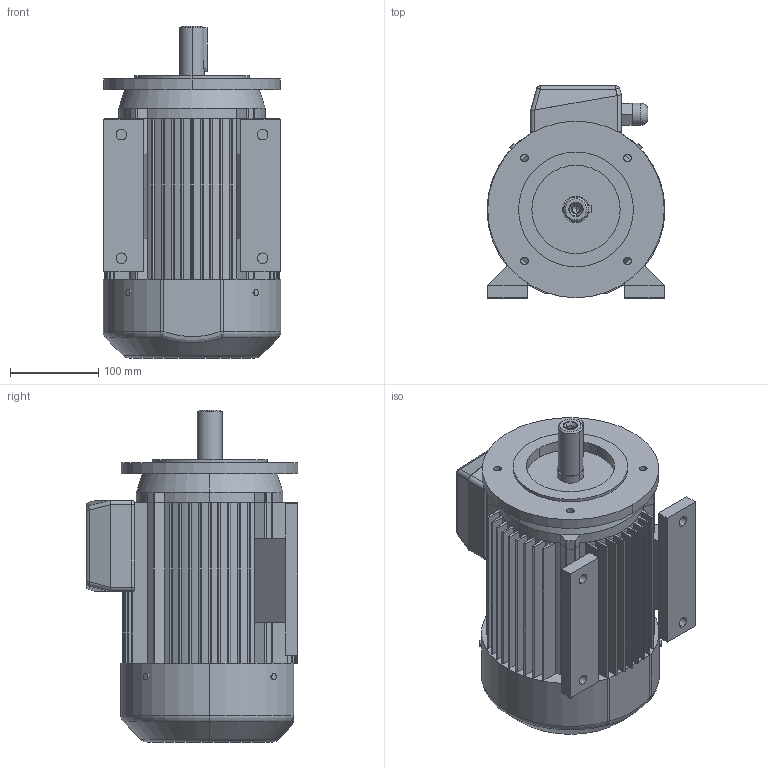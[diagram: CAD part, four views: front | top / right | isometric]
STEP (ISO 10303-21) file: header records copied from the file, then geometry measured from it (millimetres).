
FILE_DESCRIPTION (( 'STEP AP203' ), '1' );
FILE_NAME ('SLg 100L-B34-C1.STEP', '2010-04-14T08:29:29', ( 'INDUKTA' ), ( 'CANTONI MOTOR' ), 'SwSTEP 2.0', 'SolidWorks 2003064', '' );
FILE_SCHEMA (( 'CONFIG_CONTROL_DESIGN' ));
Length unit declared in the file: millimetre
Products named in the file (1): SLg 100L-B34-C1
Bounding box: 201.5 x 240 x 376 mm (x, y, z)
Volume: 9032583.6 mm3; surface area: 662197.2 mm2
Topology: 13 solids, 13 shells, 535 faces, 1421 edges, 918 vertices
Faces by surface type: plane 262, cylinder 199, bspline 43, cone 14, torus 11, sphere 6
Entity records: 19977 total; most frequent: CARTESIAN_POINT 6657, ORIENTED_EDGE 2826, DIRECTION 2689, EDGE_CURVE 1413, VERTEX_POINT 918, AXIS2_PLACEMENT_3D 904, LINE 881, VECTOR 881
